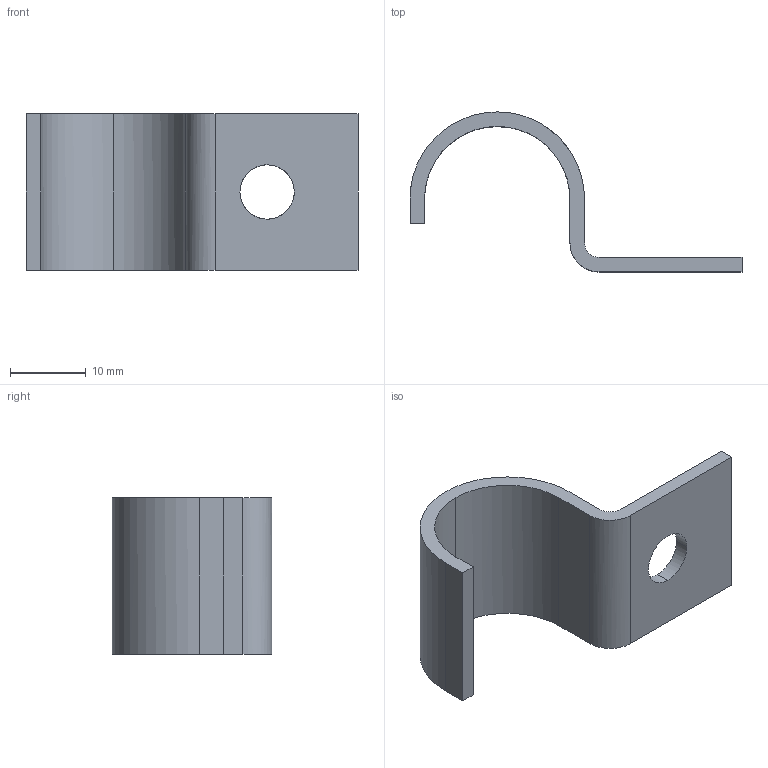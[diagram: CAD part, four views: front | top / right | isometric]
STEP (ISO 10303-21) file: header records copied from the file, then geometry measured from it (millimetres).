
FILE_DESCRIPTION(('TurboCAD Mac Pro'),'Build 980');
FILE_NAME('P2016.stp',' ',(''),(''),'ACIS Interop','IMSI','TurboCAD Mac Pro BY IMSI, INCORPORATED');
FILE_SCHEMA(('automotive_design'));
Length unit declared in the file: inch
Products named in the file (1): 1
Bounding box: 43.7 x 21.05 x 20.64 mm (x, y, z)
Volume: 2503.8 mm3; surface area: 2988.4 mm2
Topology: 1 solids, 1 shells, 20 faces, 54 edges, 36 vertices
Faces by surface type: bspline 10, plane 10
Entity records: 866 total; most frequent: CARTESIAN_POINT 241, ORIENTED_EDGE 108, DIRECTION 56, EDGE_CURVE 54, VERTEX_POINT 36, LINE 34, VECTOR 34, EDGE_LOOP 22
